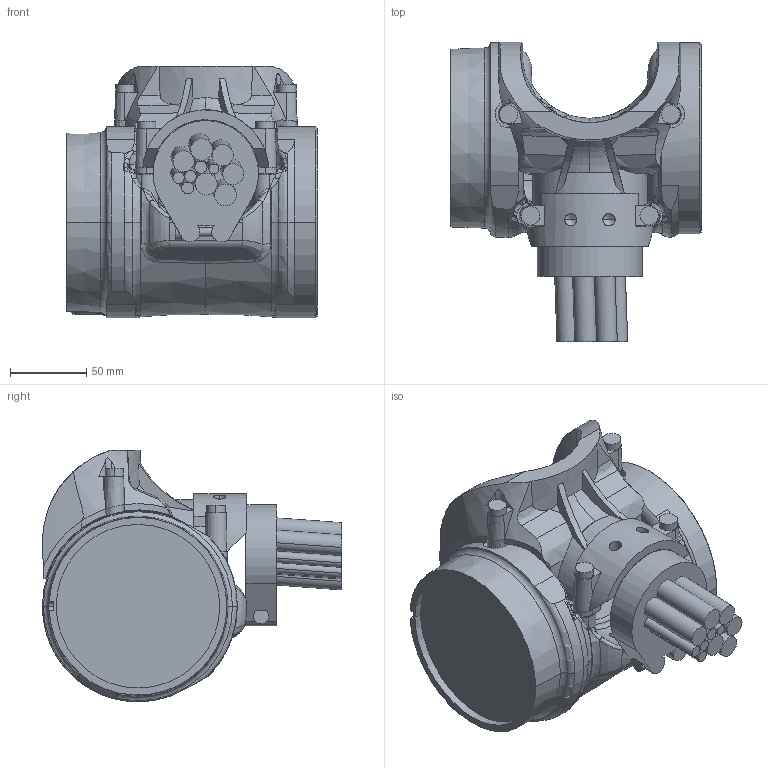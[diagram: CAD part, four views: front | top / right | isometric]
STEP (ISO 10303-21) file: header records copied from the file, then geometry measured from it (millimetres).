
FILE_DESCRIPTION (( 'STEP AP214' ), '1' );
FILE_NAME ('IRB5710-LID_70kg-270_OmniCore_rev00_LINK06_CABLE.step', '2025-07-07T14:10:00', ( '' ), ( '' ), 'SwSTEP 2.0', 'SolidWorks 2024', '' );
FILE_SCHEMA (( 'AUTOMOTIVE_DESIGN' ));
Length unit declared in the file: millimetre
Products named in the file (1): IRB5710-LID_70kg-270_OmniCore_rev00_LINK06_CABLE
Bounding box: 164.1 x 195.66 x 164.5 mm (x, y, z)
Volume: 1476394.4 mm3; surface area: 192172.2 mm2
Topology: 1 solids, 5 shells, 713 faces, 1783 edges, 1080 vertices
Faces by surface type: bspline 254, cylinder 158, plane 141, cone 89, torus 71
Entity records: 46295 total; most frequent: CARTESIAN_POINT 31344, ORIENTED_EDGE 3496, DIRECTION 2408, EDGE_CURVE 1748, VERTEX_POINT 1080, AXIS2_PLACEMENT_3D 1024, B_SPLINE_CURVE_WITH_KNOTS 768, EDGE_LOOP 762
